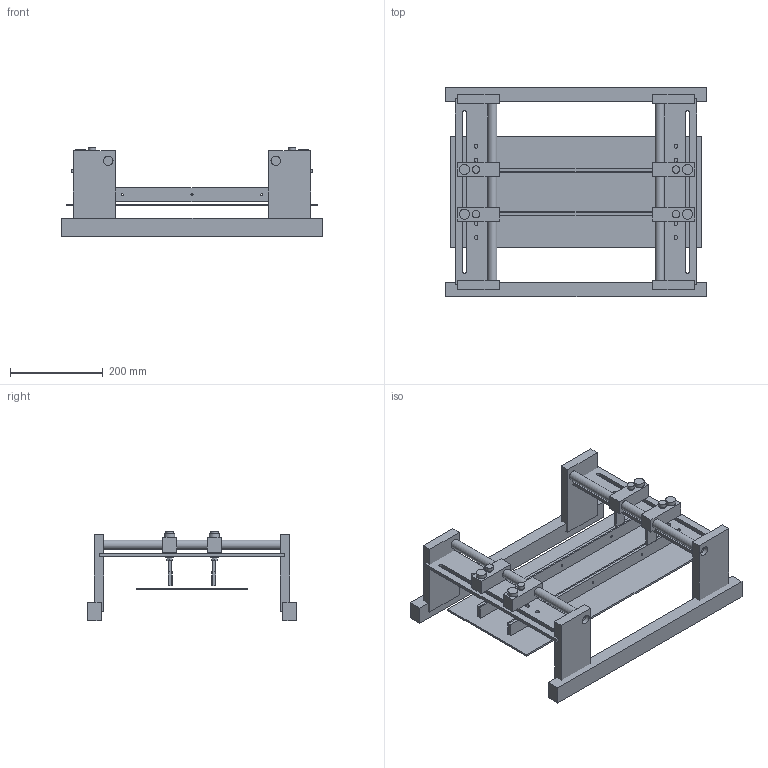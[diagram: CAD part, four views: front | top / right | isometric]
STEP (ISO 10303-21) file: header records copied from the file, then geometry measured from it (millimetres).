
FILE_DESCRIPTION(('Open CASCADE Model'),'2;1');
FILE_NAME('Open CASCADE Shape Model','2026-10-28T04:26:15',('Author'),( 'Open CASCADE'),'Open CASCADE STEP processor 7.8','Open CASCADE 7.8' ,'Unknown');
FILE_SCHEMA(('AUTOMOTIVE_DESIGN { 1 0 10303 214 1 1 1 1 }'));
Length unit declared in the file: millimetre
Products named in the file (52): Open CASCADE STEP translator 7.8 1; Open CASCADE STEP translator 7.8 1.1; Open CASCADE STEP translator 7.8 1.2; Open CASCADE STEP translator 7.8 1.3; Open CASCADE STEP translator 7.8 1.4; Open CASCADE STEP translator 7.8 1.5; Open CASCADE STEP translator 7.8 1.6; Open CASCADE STEP translator 7.8 1.7; Open CASCADE STEP translator 7.8 1.8; Open CASCADE STEP translator 7.8 1.9; Open CASCADE STEP translator 7.8 1.10; Open CASCADE STEP translator 7.8 1.11; Open CASCADE STEP translator 7.8 1.12; Open CASCADE STEP translator 7.8 1.13; Open CASCADE STEP translator 7.8 1.14; Open CASCADE STEP translator 7.8 1.15; Open CASCADE STEP translator 7.8 1.16; Open CASCADE STEP translator 7.8 1.17; Open CASCADE STEP translator 7.8 1.18; Open CASCADE STEP translator 7.8 1.19; Open CASCADE STEP translator 7.8 1.20; Open CASCADE STEP translator 7.8 1.21; Open CASCADE STEP translator 7.8 1.22; Open CASCADE STEP translator 7.8 1.23; Open CASCADE STEP translator 7.8 1.24; Open CASCADE STEP translator 7.8 1.25; Open CASCADE STEP translator 7.8 1.26; Open CASCADE STEP translator 7.8 1.27; Open CASCADE STEP translator 7.8 1.28; Open CASCADE STEP translator 7.8 1.29; Open CASCADE STEP translator 7.8 1.30; Open CASCADE STEP translator 7.8 1.31; Open CASCADE STEP translator 7.8 1.32; Open CASCADE STEP translator 7.8 1.33; Open CASCADE STEP translator 7.8 1.34; Open CASCADE STEP translator 7.8 1.35; Open CASCADE STEP translator 7.8 1.36; Open CASCADE STEP translator 7.8 1.37; Open CASCADE STEP translator 7.8 1.38; Open CASCADE STEP translator 7.8 1.39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
Assembly tree (51 placements, depth 2):
  Open CASCADE STEP translator 7.8 1
    Open CASCADE STEP translator 7.8 1.1
    Open CASCADE STEP translator 7.8 1.2
    Open CASCADE STEP translator 7.8 1.3
    Open CASCADE STEP translator 7.8 1.4
    Open CASCADE STEP translator 7.8 1.5
    Open CASCADE STEP translator 7.8 1.6
    Open CASCADE STEP translator 7.8 1.7
    Open CASCADE STEP translator 7.8 1.8
    Open CASCADE STEP translator 7.8 1.9
    Open CASCADE STEP translator 7.8 1.10
    Open CASCADE STEP translator 7.8 1.11
    Open CASCADE STEP translator 7.8 1.12
    Open CASCADE STEP translator 7.8 1.13
    Open CASCADE STEP translator 7.8 1.14
    Open CASCADE STEP translator 7.8 1.15
    Open CASCADE STEP translator 7.8 1.16
    Open CASCADE STEP translator 7.8 1.17
    Open CASCADE STEP translator 7.8 1.18
    Open CASCADE STEP translator 7.8 1.19
    Open CASCADE STEP translator 7.8 1.20
    Open CASCADE STEP translator 7.8 1.21
    Open CASCADE STEP translator 7.8 1.22
    Open CASCADE STEP translator 7.8 1.23
    Open CASCADE STEP translator 7.8 1.24
    Open CASCADE STEP translator 7.8 1.25
    Open CASCADE STEP translator 7.8 1.26
    Open CASCADE STEP translator 7.8 1.27
    Open CASCADE STEP translator 7.8 1.28
    Open CASCADE STEP translator 7.8 1.29
    Open CASCADE STEP translator 7.8 1.30
    Open CASCADE STEP translator 7.8 1.31
    Open CASCADE STEP translator 7.8 1.32
    Open CASCADE STEP translator 7.8 1.33
    Open CASCADE STEP translator 7.8 1.34
    Open CASCADE STEP translator 7.8 1.35
    Open CASCADE STEP translator 7.8 1.36
    Open CASCADE STEP translator 7.8 1.37
    Open CASCADE STEP translator 7.8 1.38
    Open CASCADE STEP translator 7.8 1.39
    Open CASCADE STEP translator 7.8 1.40
    Open CASCADE STEP translator 7.8 1.41
    Open CASCADE STEP translator 7.8 1.42
    Open CASCADE STEP translator 7.8 1.43
    Open CASCADE STEP translator 7.8 1.44
    Open CASCADE STEP translator 7.8 1.45
    Open CASCADE STEP translator 7.8 1.46
    Open CASCADE STEP translator 7.8 1.47
    Open CASCADE STEP translator 7.8 1.48
    Open CASCADE STEP translator 7.8 1.49
    Open CASCADE STEP translator 7.8 1.50
    Open CASCADE STEP translator 7.8 1.51
Bounding box: 560 x 450 x 192 mm (x, y, z)
Volume: 4310397.6 mm3; surface area: 1022703.9 mm2
Topology: 51 solids, 51 shells, 308 faces, 618 edges, 412 vertices
Faces by surface type: plane 230, cylinder 78
Full cylindrical faces by diameter (mm): 4.5 x12, 7 x4, 8 x8, 8.15 x12, 8.25 x4, 8.5 x12, 16 x4, 18 x4, 20 x2, 20.15 x4, 20.2 x4, 22 x4
Entity records: 17226 total; most frequent: CARTESIAN_POINT 3014, DIRECTION 2652, LINE 1526, VECTOR 1526, ORIENTED_EDGE 1236, PCURVE 1236, DEFINITIONAL_REPRESENTATION 1236, EDGE_CURVE 618
